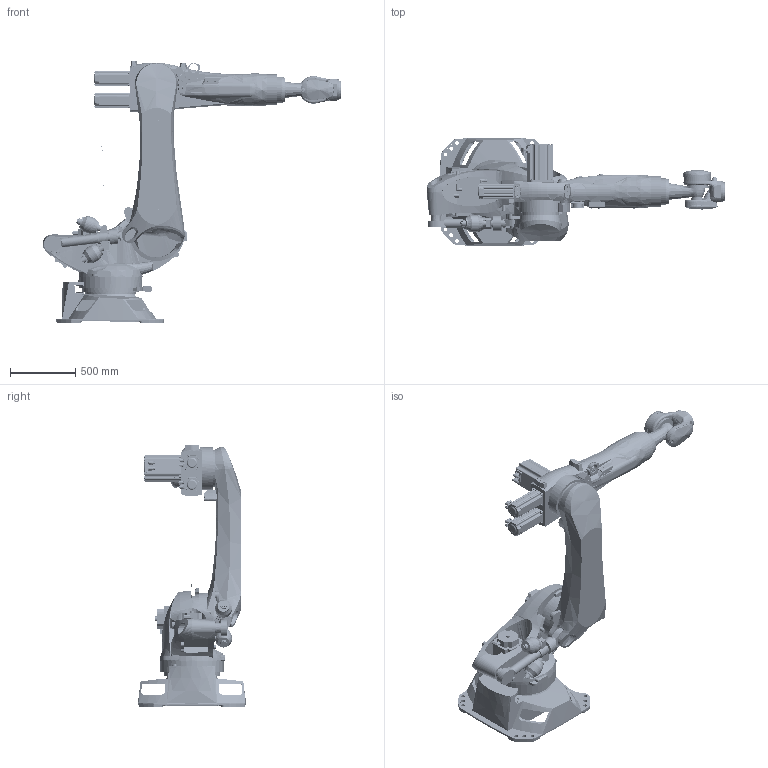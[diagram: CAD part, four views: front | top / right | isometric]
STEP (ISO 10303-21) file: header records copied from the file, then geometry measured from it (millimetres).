
FILE_DESCRIPTION (( 'STEP AP203' ), '1' );
FILE_NAME ('AT210R2700本体三维模型 24.01.08.STEP', '2024-01-08T07:14:19', ( '' ), ( '' ), 'SwSTEP 2.0', 'SolidWorks 2021', '' );
FILE_SCHEMA (( 'CONFIG_CONTROL_DESIGN' ));
Length unit declared in the file: millimetre
Products named in the file (13): Part-48; Part-52.STEP; AT210R2700本体三维模型 24.01.08; Part-45.STEP; Part-5.STEP; Part-94.STEP; Part-6.STEP; Part-46.STEP; Part-44.STEP; Part-15.STEP; Part-93.STEP; 1A31-____-1.STEP; Part-43.STEP
Assembly tree (12 placements, depth 2):
  AT210R2700本体三维模型 24.01.08
    Part-5.STEP
    Part-6.STEP
    Part-15.STEP
    Part-43.STEP
    Part-44.STEP
    Part-45.STEP
    Part-46.STEP
    Part-52.STEP
    Part-93.STEP
    Part-94.STEP
    1A31-____-1.STEP
    Part-48
Bounding box: 2283.79 x 829.04 x 2005.54 mm (x, y, z)
Volume: 261139254.3 mm3; surface area: 10593785.6 mm2
Topology: 12 solids, 180 shells, 10555 faces, 26951 edges, 16873 vertices
Faces by surface type: plane 3421, cylinder 3224, bspline 2459, cone 1431, torus 19, sphere 1
Entity records: 507911 total; most frequent: CARTESIAN_POINT 274193, ORIENTED_EDGE 52621, DIRECTION 41697, EDGE_CURVE 26406, VERTEX_POINT 16873, AXIS2_PLACEMENT_3D 15874, EDGE_LOOP 11647, ADVANCED_FACE 10555
